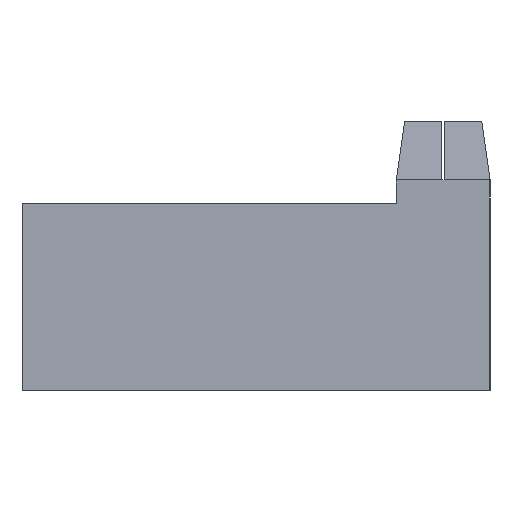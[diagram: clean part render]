
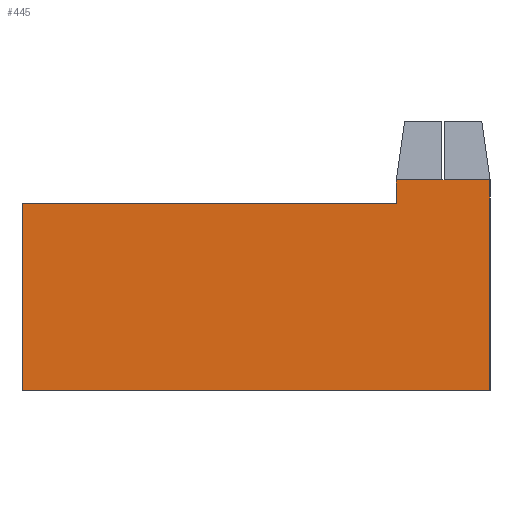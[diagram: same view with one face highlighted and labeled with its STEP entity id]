
A CAD part, left-side view. The second image highlights one B-rep face of the part: STEP entity #445.
In plain terms, the highlighted planar face has unit normal (-1, 0, 0).
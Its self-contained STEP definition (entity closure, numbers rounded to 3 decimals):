
#445=ADVANCED_FACE('',(#1313),#1315,.T.);
#1313=FACE_BOUND('',#1314,.T.);
#1314=EDGE_LOOP('',(#2004,#2005,#2006,#2007,#2008,#2009,#2010,#2011));
#1315=PLANE('',#1316);
#1316=AXIS2_PLACEMENT_3D('',#1317,#1318,#1319);
#1317=CARTESIAN_POINT('',(0.,30.,0.));
#1318=DIRECTION('',(-1.,0.,0.));
#1319=DIRECTION('',(0.,-1.,0.));
#2004=ORIENTED_EDGE('',*,*,#2282,.T.);
#2005=ORIENTED_EDGE('',*,*,#2449,.F.);
#2006=ORIENTED_EDGE('',*,*,#2456,.F.);
#2007=ORIENTED_EDGE('',*,*,#2457,.F.);
#2008=ORIENTED_EDGE('',*,*,#2458,.T.);
#2009=ORIENTED_EDGE('',*,*,#2459,.T.);
#2010=ORIENTED_EDGE('',*,*,#2460,.T.);
#2011=ORIENTED_EDGE('',*,*,#2445,.F.);
#2282=EDGE_CURVE('',#2543,#2541,#2544,.T.);
#2445=EDGE_CURVE('',#2543,#2819,#2820,.T.);
#2449=EDGE_CURVE('',#2823,#2541,#2825,.T.);
#2456=EDGE_CURVE('',#2834,#2823,#2835,.T.);
#2457=EDGE_CURVE('',#2836,#2834,#2837,.T.);
#2458=EDGE_CURVE('',#2836,#2838,#2839,.F.);
#2459=EDGE_CURVE('',#2838,#2840,#2841,.T.);
#2460=EDGE_CURVE('',#2840,#2819,#2842,.T.);
#2541=VERTEX_POINT('',#2959);
#2543=VERTEX_POINT('',#2963);
#2544=LINE('',#2964,#2965);
#2819=VERTEX_POINT('',#3565);
#2820=LINE('',#3566,#3567);
#2823=VERTEX_POINT('',#3575);
#2825=LINE('',#3579,#3580);
#2834=VERTEX_POINT('',#3602);
#2835=LINE('',#3603,#3604);
#2836=VERTEX_POINT('',#3606);
#2837=LINE('',#3607,#3608);
#2838=VERTEX_POINT('',#3610);
#2839=LINE('',#3611,#3612);
#2840=VERTEX_POINT('',#3614);
#2841=LINE('',#3615,#3616);
#2842=LINE('',#3618,#3619);
#2959=CARTESIAN_POINT('',(0.,2.065,9.));
#2963=CARTESIAN_POINT('',(0.,1.965,9.));
#2964=CARTESIAN_POINT('',(0.,1.965,9.));
#2965=VECTOR('',#2966,1.);
#2966=DIRECTION('',(0.,1.,0.));
#3565=CARTESIAN_POINT('',(0.,0.,9.));
#3566=CARTESIAN_POINT('',(0.,1.965,9.));
#3567=VECTOR('',#3568,1.);
#3568=DIRECTION('',(0.,-1.,0.));
#3575=CARTESIAN_POINT('',(0.,4.,9.));
#3579=CARTESIAN_POINT('',(0.,4.,9.));
#3580=VECTOR('',#3581,1.);
#3581=DIRECTION('',(0.,-1.,0.));
#3602=CARTESIAN_POINT('',(0.,4.,8.));
#3603=CARTESIAN_POINT('',(0.,4.,8.));
#3604=VECTOR('',#3605,1.);
#3605=DIRECTION('',(0.,0.,1.));
#3606=CARTESIAN_POINT('',(0.,20.,8.));
#3607=CARTESIAN_POINT('',(0.,20.,8.));
#3608=VECTOR('',#3609,1.);
#3609=DIRECTION('',(0.,-1.,0.));
#3610=CARTESIAN_POINT('',(0.,20.,0.));
#3611=CARTESIAN_POINT('',(0.,20.,0.));
#3612=VECTOR('',#3613,1.);
#3613=DIRECTION('',(0.,0.,1.));
#3614=CARTESIAN_POINT('',(0.,0.,0.));
#3615=CARTESIAN_POINT('',(0.,20.,0.));
#3616=VECTOR('',#3617,1.);
#3617=DIRECTION('',(0.,-1.,0.));
#3618=CARTESIAN_POINT('',(0.,0.,0.));
#3619=VECTOR('',#3620,1.);
#3620=DIRECTION('',(0.,0.,1.));
